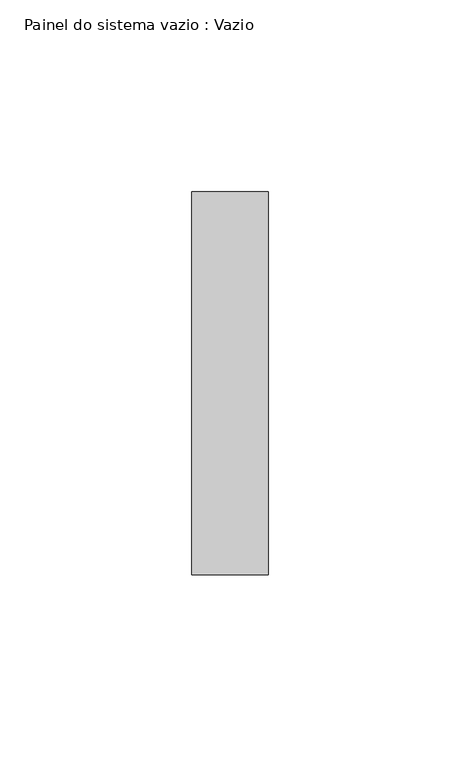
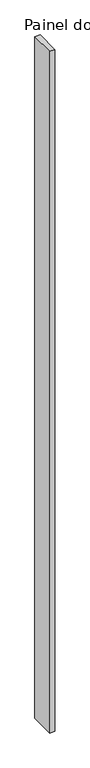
"""IFC4 building model written with IfcOpenShell, lengths in millimetres: plate geometry, Painel do sistema vazio : Vazio."""

from ifc_helpers import new_model, si_unit, origin, origin_with_axes, place, context, project, spatial, polyline, outline, extrude, source, transform, mapped, element, save


def painel_do_sistema_vazio_vazio_22f7d0d9(model_context):
    return source(origin(), model_context, "Body", "SweptSolid", [
        extrude(outline(polyline([(10.0, -50.0), (-10.0, -50.0), (-10.0, 50.0), (10.0, 50.0), (10.0, -50.0)])), origin_with_axes(), (0.0, 0.0, 1.0), 2800.0),
    ])


if __name__ == "__main__":
    model = new_model("IFC4")
    model_context = context("Model", 3, world=origin())
    ifc_project = project(units=[si_unit("LENGTHUNIT", "METRE", prefix="MILLI")], contexts=[model_context])
    site = spatial("IfcSite", under=ifc_project)
    building = spatial("IfcBuilding", under=site)
    placement = place(None, origin())
    painel_do_sistema_vazio_vazio_shape = painel_do_sistema_vazio_vazio_22f7d0d9(model_context)
    element("IfcPlate", 1, ObjectType="Painel do sistema vazio : Vazio", at=placement, inside=building, context=model_context, shape_type="MappedRepresentation", body=[
        mapped(painel_do_sistema_vazio_vazio_shape, transform((0.0, 0.0, 0.0), x_axis=(1.0, 0.0, 0.0), y_axis=(0.0, 1.0, 0.0), z_axis=(0.0, 0.0, 1.0))),
    ])
    save(model, "model.ifc")
